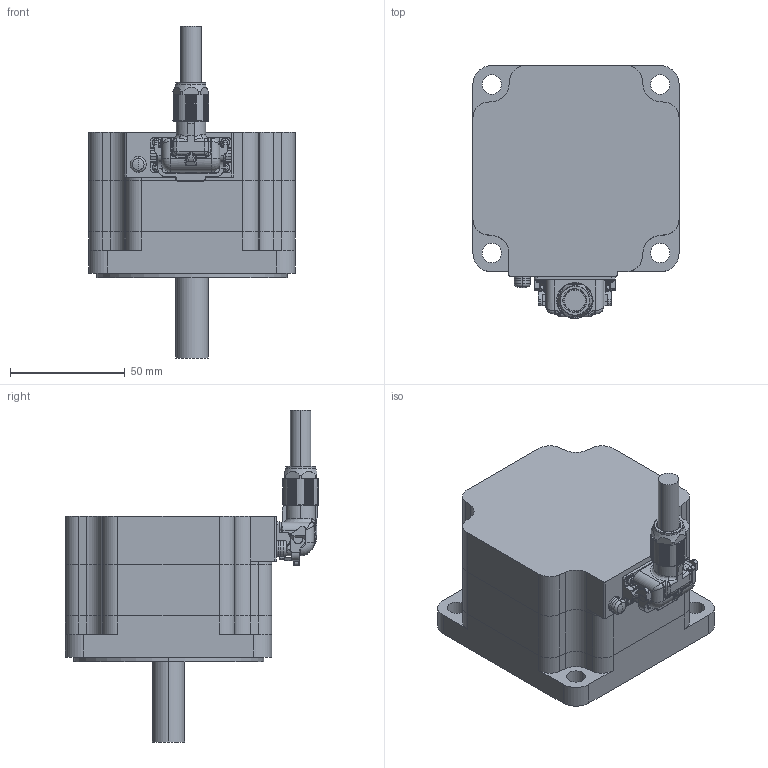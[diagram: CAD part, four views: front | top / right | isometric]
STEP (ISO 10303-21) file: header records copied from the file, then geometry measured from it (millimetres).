
FILE_DESCRIPTION (( 'STEP AP203' ), '1' );
FILE_NAME ('A1481.STEP', '2015-09-08T04:34:29', ( 'om' ), ( 'Hewlett-Packard Company' ), 'SwSTEP 2.0', 'SolidWorks 2014', '' );
FILE_SCHEMA (( 'CONFIG_CONTROL_DESIGN' ));
Length unit declared in the file: millimetre
Products named in the file (1): A1481
Bounding box: 90 x 110.5 x 144.95 mm (x, y, z)
Volume: 472748.4 mm3; surface area: 47347.7 mm2
Topology: 2 solids, 9 shells, 1036 faces, 2731 edges, 1720 vertices
Faces by surface type: plane 534, cylinder 376, bspline 58, torus 44, cone 20, sphere 4
Entity records: 39484 total; most frequent: CARTESIAN_POINT 14693, ORIENTED_EDGE 5438, DIRECTION 4779, EDGE_CURVE 2719, VERTEX_POINT 1720, AXIS2_PLACEMENT_3D 1598, LINE 1583, VECTOR 1583
